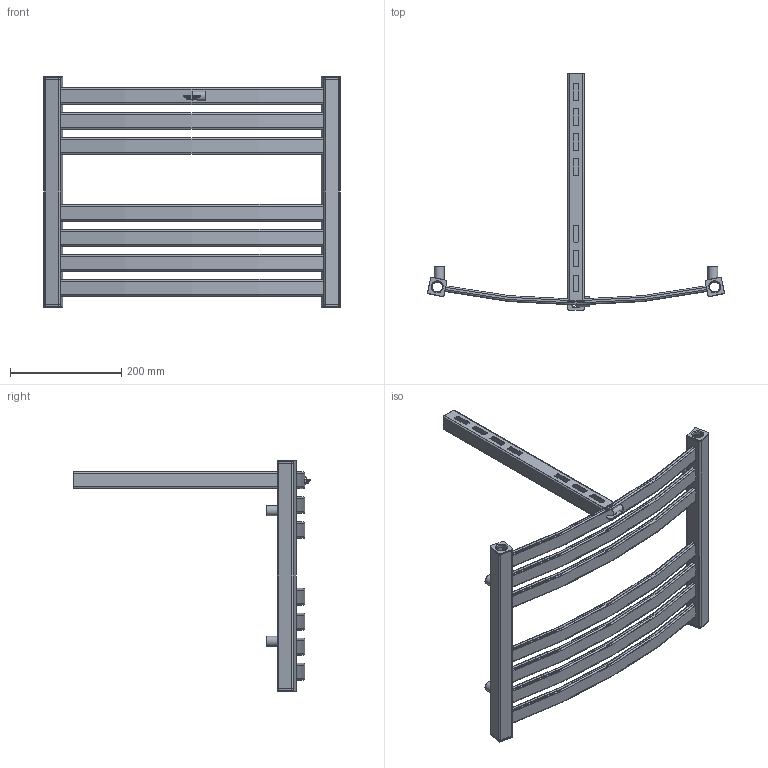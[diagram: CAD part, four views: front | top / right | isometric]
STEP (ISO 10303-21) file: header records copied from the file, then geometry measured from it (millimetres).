
FILE_DESCRIPTION( ( 'Unknown' ), '1' );
FILE_NAME( 'D:/Alplast sp. j/Witryna zespoBu - Projekty/Archiwum/Grzejniki Archiwum/Projekty/STANDARD/AK-EL/AK1-500EL.stp', 'Unknown', ( 'Unknown' ), ( 'Unknown' ), 'PSStep 10.1', 'Unknown', ' ' );
FILE_SCHEMA( ( 'AUTOMOTIVE_DESIGN { 1 0 10303 214 1 1 1 1 }' ) );
Length unit declared in the file: millimetre
Products named in the file (5): Assem1; AK1-EPEL; zaslepka kwadrat otwor; tulejka kat 12stopni; kana³  poziomy lukowy L-500
Bounding box: 534.79 x 426 x 415 mm (x, y, z)
Volume: 619113.9 mm3; surface area: 829381.5 mm2
Topology: 21 solids, 21 shells, 506 faces, 1382 edges, 928 vertices
Faces by surface type: plane 232, cylinder 200, torus 74
Full cylindrical faces by diameter (mm): 16 x5, 18 x5, 18.631 x5, 23 x5
Entity records: 5024 total; most frequent: DIRECTION 736, CARTESIAN_POINT 686, ORIENTED_EDGE 652, EDGE_CURVE 326, AXIS2_PLACEMENT_3D 272, VERTEX_POINT 222, LINE 192, VECTOR 192
